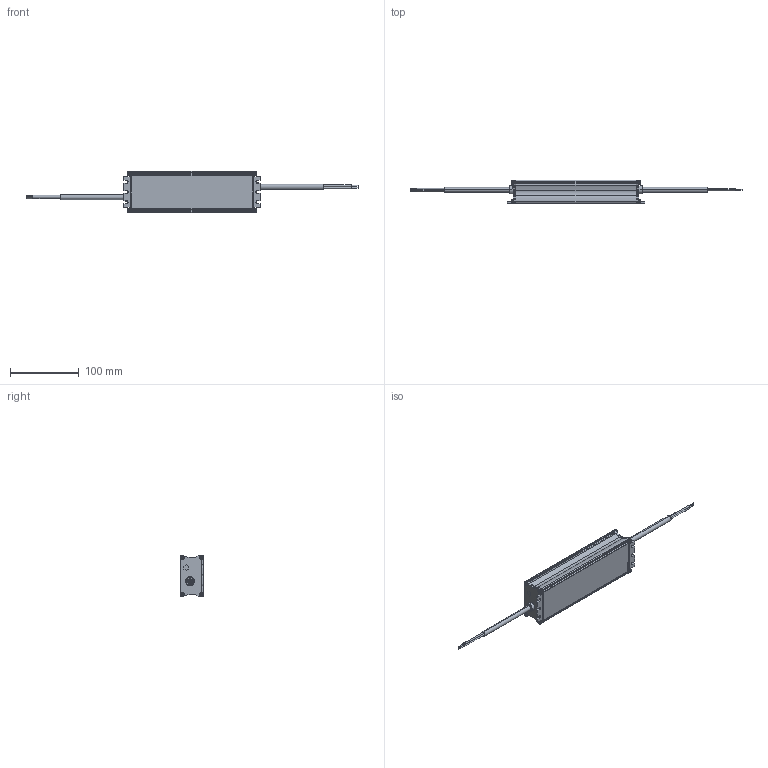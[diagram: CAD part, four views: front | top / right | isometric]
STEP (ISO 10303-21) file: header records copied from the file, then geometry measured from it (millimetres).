
FILE_DESCRIPTION((''),'2;1');
FILE_NAME('000_NEW_ASM','2020-11-13T',('JIM.KUO'),(''),'CREO PARAMETRIC BY PTC INC, 2018220','CREO PARAMETRIC BY PTC INC, 2018220','');
FILE_SCHEMA(('CONFIG_CONTROL_DESIGN'));
Length unit declared in the file: millimetre
Products named in the file (9): HOUSING_175X60X34_SLIDE; INPUT_SEALANT__90W_; INPUT_CAP__90W_; OUTPUT_SEALANT__90W_; OUTPUT_CAP__90W_; CABLE_OUTPUT_XXXW; CABLE_INPUT_CC_XXXW; T_SCREW_PAN-T3-10L-NI; 000_NEW_ASM
Assembly tree (15 placements, depth 2):
  000_NEW_ASM
    HOUSING_175X60X34_SLIDE
    INPUT_SEALANT__90W_
    INPUT_CAP__90W_
    OUTPUT_SEALANT__90W_
    OUTPUT_CAP__90W_
    CABLE_OUTPUT_XXXW
    CABLE_INPUT_CC_XXXW
    T_SCREW_PAN-T3-10L-NI  x8
Bounding box: 482.4 x 34.6 x 60.7 mm (x, y, z)
Volume: 92837.8 mm3; surface area: 98145.7 mm2
Topology: 15 solids, 15 shells, 1008 faces, 2661 edges, 1754 vertices
Faces by surface type: plane 411, cylinder 247, extrusion 134, cone 130, bspline 48, torus 38
Entity records: 39351 total; most frequent: CARTESIAN_POINT 11829, ORIENTED_EDGE 3614, DIRECTION 3231, PRESENTATION_STYLE_ASSIGNMENT 2551, STYLED_ITEM 2386, CURVE_STYLE 1941, EDGE_CURVE 1807, VERTEX_POINT 1194
